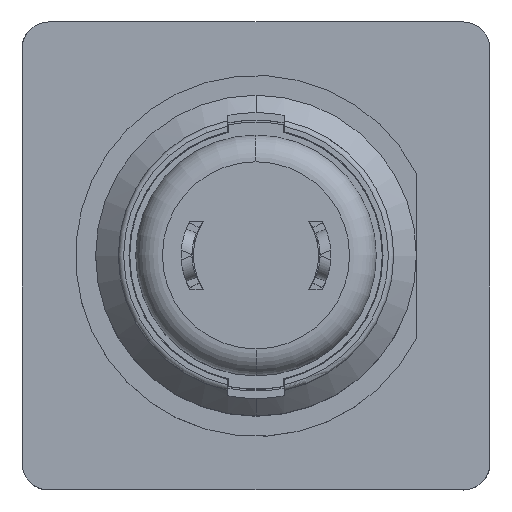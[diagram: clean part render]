
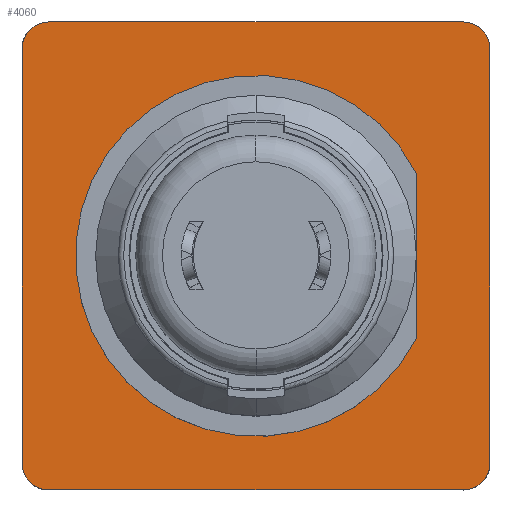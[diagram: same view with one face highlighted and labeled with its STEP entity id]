
A CAD part, top view. The second image highlights one B-rep face of the part: STEP entity #4060.
In plain terms, the highlighted planar face has unit normal (0, 0, 1).
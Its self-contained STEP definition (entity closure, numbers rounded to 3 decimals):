
#437=CARTESIAN_POINT('',(7.75,-7.75,0.));
#438=DIRECTION('',(0.,0.,1.));
#439=DIRECTION('',(0.,-1.,0.));
#440=AXIS2_PLACEMENT_3D('',#437,#438,#439);
#442=DIRECTION('',(-1.,0.,0.));
#443=VECTOR('',#442,15.5);
#444=CARTESIAN_POINT('',(7.75,-8.75,0.));
#445=LINE('',#444,#443);
#446=CARTESIAN_POINT('',(-7.75,-7.75,0.));
#447=DIRECTION('',(0.,0.,1.));
#448=DIRECTION('',(-1.,0.,0.));
#449=AXIS2_PLACEMENT_3D('',#446,#447,#448);
#451=DIRECTION('',(0.,1.,0.));
#452=VECTOR('',#451,15.5);
#453=CARTESIAN_POINT('',(-8.75,-7.75,0.));
#454=LINE('',#453,#452);
#455=CARTESIAN_POINT('',(-7.75,7.75,0.));
#456=DIRECTION('',(0.,0.,1.));
#457=DIRECTION('',(0.,1.,0.));
#458=AXIS2_PLACEMENT_3D('',#455,#456,#457);
#460=DIRECTION('',(1.,0.,0.));
#461=VECTOR('',#460,15.5);
#462=CARTESIAN_POINT('',(-7.75,8.75,0.));
#463=LINE('',#462,#461);
#464=CARTESIAN_POINT('',(7.75,7.75,0.));
#465=DIRECTION('',(0.,0.,1.));
#466=DIRECTION('',(1.,0.,0.));
#467=AXIS2_PLACEMENT_3D('',#464,#465,#466);
#469=DIRECTION('',(0.,-1.,0.));
#470=VECTOR('',#469,15.5);
#471=CARTESIAN_POINT('',(8.75,7.75,0.));
#472=LINE('',#471,#470);
#473=DIRECTION('',(0.,1.,0.));
#474=VECTOR('',#473,6.185);
#475=CARTESIAN_POINT('',(6.,-3.092,0.));
#476=LINE('',#475,#474);
#725=CARTESIAN_POINT('',(0.,0.,0.));
#726=DIRECTION('',(0.,0.,-1.));
#727=DIRECTION('',(0.889,-0.458,0.));
#728=AXIS2_PLACEMENT_3D('',#725,#726,#727);
#3090=CARTESIAN_POINT('',(6.,-3.092,0.));
#3091=VERTEX_POINT('',#3090);
#3092=CARTESIAN_POINT('',(6.,3.092,0.));
#3093=VERTEX_POINT('',#3092);
#3200=CARTESIAN_POINT('',(7.75,-8.75,0.));
#3201=CARTESIAN_POINT('',(8.75,-7.75,0.));
#3202=VERTEX_POINT('',#3200);
#3203=VERTEX_POINT('',#3201);
#3204=CARTESIAN_POINT('',(8.75,7.75,0.));
#3205=CARTESIAN_POINT('',(7.75,8.75,0.));
#3206=VERTEX_POINT('',#3204);
#3207=VERTEX_POINT('',#3205);
#3208=CARTESIAN_POINT('',(-7.75,8.75,0.));
#3209=CARTESIAN_POINT('',(-8.75,7.75,0.));
#3210=VERTEX_POINT('',#3208);
#3211=VERTEX_POINT('',#3209);
#3212=CARTESIAN_POINT('',(-8.75,-7.75,0.));
#3213=CARTESIAN_POINT('',(-7.75,-8.75,0.));
#3214=VERTEX_POINT('',#3212);
#3215=VERTEX_POINT('',#3213);
#4034=CARTESIAN_POINT('',(0.,0.,0.));
#4035=DIRECTION('',(0.,0.,1.));
#4036=DIRECTION('',(0.,1.,0.));
#4037=AXIS2_PLACEMENT_3D('',#4034,#4035,#4036);
#4038=PLANE('',#4037);
#4039=ORIENTED_EDGE('',*,*,#3606,.F.);
#4041=ORIENTED_EDGE('',*,*,#4040,.T.);
#4043=ORIENTED_EDGE('',*,*,#4042,.F.);
#4045=ORIENTED_EDGE('',*,*,#4044,.T.);
#4047=ORIENTED_EDGE('',*,*,#4046,.F.);
#4049=ORIENTED_EDGE('',*,*,#4048,.T.);
#4050=ORIENTED_EDGE('',*,*,#3969,.F.);
#4051=ORIENTED_EDGE('',*,*,#4028,.T.);
#4052=EDGE_LOOP('',(#4039,#4041,#4043,#4045,#4047,#4049,#4050,#4051));
#4053=FACE_OUTER_BOUND('',#4052,.F.);
#4055=ORIENTED_EDGE('',*,*,#4054,.F.);
#4057=ORIENTED_EDGE('',*,*,#4056,.T.);
#4058=EDGE_LOOP('',(#4055,#4057));
#4059=FACE_BOUND('',#4058,.F.);
#4060=ADVANCED_FACE('',(#4053,#4059),#4038,.T.);
#441=CIRCLE('',#440,1.);
#450=CIRCLE('',#449,1.);
#459=CIRCLE('',#458,1.);
#468=CIRCLE('',#467,1.);
#729=CIRCLE('',#728,6.75);
#3606=EDGE_CURVE('',#3202,#3203,#441,.T.);
#3969=EDGE_CURVE('',#3206,#3207,#468,.T.);
#4028=EDGE_CURVE('',#3206,#3203,#472,.T.);
#4040=EDGE_CURVE('',#3202,#3215,#445,.T.);
#4042=EDGE_CURVE('',#3214,#3215,#450,.T.);
#4044=EDGE_CURVE('',#3214,#3211,#454,.T.);
#4046=EDGE_CURVE('',#3210,#3211,#459,.T.);
#4048=EDGE_CURVE('',#3210,#3207,#463,.T.);
#4054=EDGE_CURVE('',#3091,#3093,#729,.T.);
#4056=EDGE_CURVE('',#3091,#3093,#476,.T.);
